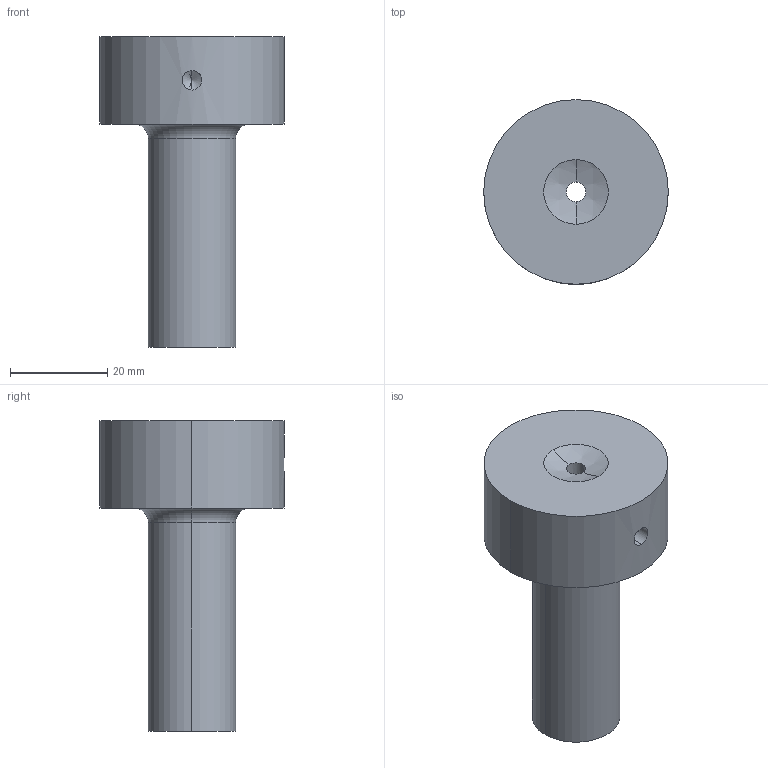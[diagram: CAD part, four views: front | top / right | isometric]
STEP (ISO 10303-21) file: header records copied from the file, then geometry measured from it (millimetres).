
FILE_DESCRIPTION (( 'STEP AP214' ), '1' );
FILE_NAME ('IMC-I1-18x46-4-1.STEP', '2023-01-11T13:43:06', ( '' ), ( '' ), 'SwSTEP 2.0', 'SolidWorks 2019', '' );
FILE_SCHEMA (( 'AUTOMOTIVE_DESIGN' ));
Length unit declared in the file: millimetre
Products named in the file (1): IMC-I1-18x46-4-1
Bounding box: 38 x 38 x 64 mm (x, y, z)
Volume: 30651.5 mm3; surface area: 8079.2 mm2
Topology: 1 solids, 1 shells, 21 faces, 48 edges, 28 vertices
Faces by surface type: cylinder 8, cone 6, plane 3, sphere 2, torus 2
Entity records: 662 total; most frequent: CARTESIAN_POINT 148, DIRECTION 114, ORIENTED_EDGE 88, AXIS2_PLACEMENT_3D 50, EDGE_CURVE 44, VERTEX_POINT 28, CIRCLE 28, EDGE_LOOP 26
